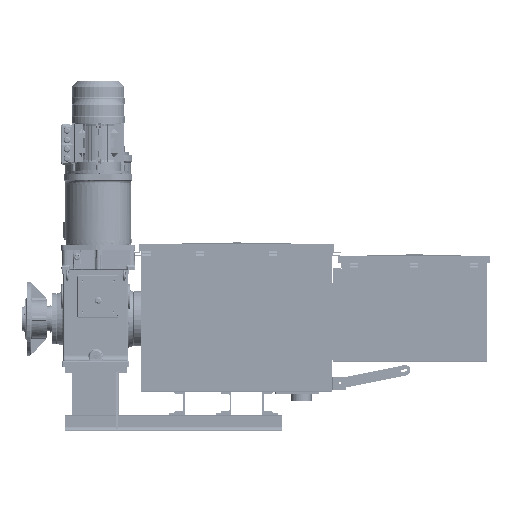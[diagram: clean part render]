
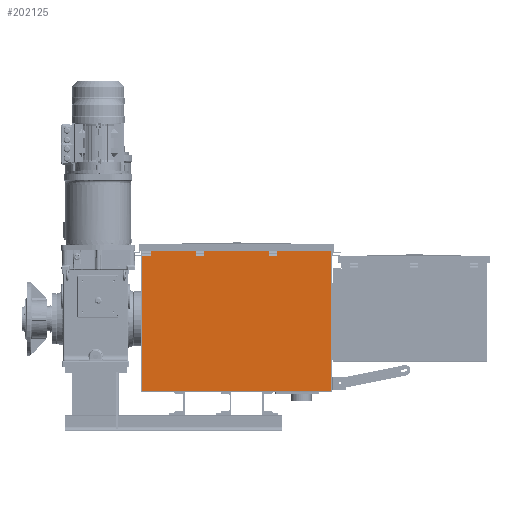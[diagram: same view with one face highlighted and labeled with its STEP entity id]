
A CAD part, top view. The second image highlights one B-rep face of the part: STEP entity #202125.
In plain terms, the highlighted planar face has unit normal (0, 0, 1).
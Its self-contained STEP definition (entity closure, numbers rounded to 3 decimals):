
#7387=FACE_BOUND('',#33119,.T.);
#7388=FACE_BOUND('',#33120,.T.);
#7389=FACE_BOUND('',#33121,.T.);
#20514=FACE_OUTER_BOUND('',#33118,.T.);
#33118=EDGE_LOOP('',(#169709,#169710,#169711,#169712,#169713,#169714,#169715,
#169716,#169717,#169718,#169719,#169720));
#33119=EDGE_LOOP('',(#169721,#169722,#169723,#169724));
#33120=EDGE_LOOP('',(#169725,#169726,#169727,#169728));
#33121=EDGE_LOOP('',(#169729,#169730,#169731,#169732));
#48710=LINE('',#355430,#65987);
#48727=LINE('',#355475,#66004);
#48729=LINE('',#355479,#66006);
#48730=LINE('',#355481,#66007);
#48731=LINE('',#355490,#66008);
#48748=LINE('',#355535,#66025);
#48750=LINE('',#355539,#66027);
#48751=LINE('',#355541,#66028);
#48752=LINE('',#355550,#66029);
#48769=LINE('',#355595,#66046);
#48771=LINE('',#355599,#66048);
#48772=LINE('',#355601,#66049);
#49063=LINE('',#356460,#66340);
#49066=LINE('',#356466,#66343);
#49069=LINE('',#356473,#66346);
#49072=LINE('',#356477,#66349);
#49078=LINE('',#356489,#66355);
#49080=LINE('',#356493,#66357);
#49082=LINE('',#356496,#66359);
#49083=LINE('',#356499,#66360);
#49084=LINE('',#356501,#66361);
#49085=LINE('',#356502,#66362);
#49086=LINE('',#356504,#66363);
#49087=LINE('',#356505,#66364);
#65987=VECTOR('',#262540,40.);
#66004=VECTOR('',#262583,40.);
#66006=VECTOR('',#262587,40.);
#66007=VECTOR('',#262590,40.);
#66008=VECTOR('',#262599,40.);
#66025=VECTOR('',#262642,40.);
#66027=VECTOR('',#262646,40.);
#66028=VECTOR('',#262649,40.);
#66029=VECTOR('',#262658,40.);
#66046=VECTOR('',#262701,40.);
#66048=VECTOR('',#262705,40.);
#66049=VECTOR('',#262708,40.);
#66340=VECTOR('',#263573,865.);
#66343=VECTOR('',#263578,0.992);
#66346=VECTOR('',#263583,2.976);
#66349=VECTOR('',#263588,1.984);
#66355=VECTOR('',#263598,2.976);
#66357=VECTOR('',#263602,0.992);
#66359=VECTOR('',#263606,1.984);
#66360=VECTOR('',#263609,23.016);
#66361=VECTOR('',#263610,699.016);
#66362=VECTOR('',#263611,915.);
#66363=VECTOR('',#263612,699.016);
#66364=VECTOR('',#263613,23.016);
#90969=VERTEX_POINT('',#355428);
#90970=VERTEX_POINT('',#355429);
#90985=VERTEX_POINT('',#355473);
#90986=VERTEX_POINT('',#355477);
#90989=VERTEX_POINT('',#355488);
#90990=VERTEX_POINT('',#355489);
#91005=VERTEX_POINT('',#355533);
#91006=VERTEX_POINT('',#355537);
#91009=VERTEX_POINT('',#355548);
#91010=VERTEX_POINT('',#355549);
#91025=VERTEX_POINT('',#355593);
#91026=VERTEX_POINT('',#355597);
#91214=VERTEX_POINT('',#356160);
#91306=VERTEX_POINT('',#356452);
#91307=VERTEX_POINT('',#356456);
#91309=VERTEX_POINT('',#356464);
#91311=VERTEX_POINT('',#356470);
#91312=VERTEX_POINT('',#356472);
#91315=VERTEX_POINT('',#356486);
#91316=VERTEX_POINT('',#356488);
#91317=VERTEX_POINT('',#356492);
#91318=VERTEX_POINT('',#356498);
#91319=VERTEX_POINT('',#356500);
#91320=VERTEX_POINT('',#356503);
#117272=EDGE_CURVE('',#90969,#90970,#48710,.T.);
#117295=EDGE_CURVE('',#90970,#90985,#48727,.T.);
#117297=EDGE_CURVE('',#90986,#90969,#48729,.T.);
#117298=EDGE_CURVE('',#90985,#90986,#48730,.T.);
#117301=EDGE_CURVE('',#90989,#90990,#48731,.T.);
#117324=EDGE_CURVE('',#90990,#91005,#48748,.T.);
#117326=EDGE_CURVE('',#91006,#90989,#48750,.T.);
#117327=EDGE_CURVE('',#91005,#91006,#48751,.T.);
#117330=EDGE_CURVE('',#91009,#91010,#48752,.T.);
#117353=EDGE_CURVE('',#91010,#91025,#48769,.T.);
#117355=EDGE_CURVE('',#91026,#91009,#48771,.T.);
#117356=EDGE_CURVE('',#91025,#91026,#48772,.T.);
#117770=EDGE_CURVE('',#91306,#91307,#49063,.T.);
#117773=EDGE_CURVE('',#91307,#91309,#49066,.T.);
#117776=EDGE_CURVE('',#91312,#91311,#49069,.T.);
#117779=EDGE_CURVE('',#91309,#91312,#49072,.T.);
#117785=EDGE_CURVE('',#91316,#91315,#49078,.T.);
#117787=EDGE_CURVE('',#91317,#91306,#49080,.T.);
#117789=EDGE_CURVE('',#91315,#91317,#49082,.T.);
#117790=EDGE_CURVE('',#91318,#91311,#49083,.T.);
#117791=EDGE_CURVE('',#91319,#91318,#49084,.T.);
#117792=EDGE_CURVE('',#91319,#91214,#49085,.T.);
#117793=EDGE_CURVE('',#91320,#91214,#49086,.T.);
#117794=EDGE_CURVE('',#91316,#91320,#49087,.T.);
#169709=ORIENTED_EDGE('',*,*,#117776,.T.);
#169710=ORIENTED_EDGE('',*,*,#117790,.F.);
#169711=ORIENTED_EDGE('',*,*,#117791,.F.);
#169712=ORIENTED_EDGE('',*,*,#117792,.T.);
#169713=ORIENTED_EDGE('',*,*,#117793,.F.);
#169714=ORIENTED_EDGE('',*,*,#117794,.F.);
#169715=ORIENTED_EDGE('',*,*,#117785,.T.);
#169716=ORIENTED_EDGE('',*,*,#117789,.T.);
#169717=ORIENTED_EDGE('',*,*,#117787,.T.);
#169718=ORIENTED_EDGE('',*,*,#117770,.T.);
#169719=ORIENTED_EDGE('',*,*,#117773,.T.);
#169720=ORIENTED_EDGE('',*,*,#117779,.T.);
#169721=ORIENTED_EDGE('',*,*,#117272,.T.);
#169722=ORIENTED_EDGE('',*,*,#117295,.T.);
#169723=ORIENTED_EDGE('',*,*,#117298,.T.);
#169724=ORIENTED_EDGE('',*,*,#117297,.T.);
#169725=ORIENTED_EDGE('',*,*,#117301,.T.);
#169726=ORIENTED_EDGE('',*,*,#117324,.T.);
#169727=ORIENTED_EDGE('',*,*,#117327,.T.);
#169728=ORIENTED_EDGE('',*,*,#117326,.T.);
#169729=ORIENTED_EDGE('',*,*,#117330,.T.);
#169730=ORIENTED_EDGE('',*,*,#117353,.T.);
#169731=ORIENTED_EDGE('',*,*,#117356,.T.);
#169732=ORIENTED_EDGE('',*,*,#117355,.T.);
#181135=PLANE('',#218103);
#202125=ADVANCED_FACE('',(#20514,#7387,#7388,#7389),#181135,.F.);
#218103=AXIS2_PLACEMENT_3D('',#356497,#263607,#263608);
#262540=DIRECTION('',(0.,-1.,0.));
#262583=DIRECTION('',(-1.,0.,0.));
#262587=DIRECTION('',(1.,0.,0.));
#262590=DIRECTION('',(0.,1.,0.));
#262599=DIRECTION('',(0.,-1.,0.));
#262642=DIRECTION('',(-1.,0.,0.));
#262646=DIRECTION('',(1.,0.,0.));
#262649=DIRECTION('',(0.,1.,0.));
#262658=DIRECTION('',(0.,-1.,0.));
#262701=DIRECTION('',(-1.,0.,0.));
#262705=DIRECTION('',(1.,0.,0.));
#262708=DIRECTION('',(0.,1.,0.));
#263573=DIRECTION('',(-1.,0.,0.));
#263578=DIRECTION('',(0.,-1.,0.));
#263583=DIRECTION('',(0.,1.,0.));
#263588=DIRECTION('',(-1.,0.,0.));
#263598=DIRECTION('',(0.,-1.,0.));
#263602=DIRECTION('',(0.,1.,0.));
#263606=DIRECTION('',(-1.,0.,0.));
#263607=DIRECTION('center_axis',(0.,0.,
-1.));
#263608=DIRECTION('ref_axis',(-1.,0.,0.));
#263609=DIRECTION('',(1.,0.,0.));
#263610=DIRECTION('',(0.,1.,0.));
#263611=DIRECTION('',(1.,0.,0.));
#263612=DIRECTION('',(0.,-1.,0.));
#263613=DIRECTION('',(1.,0.,0.));
#355428=CARTESIAN_POINT('',(305.802,282.411,203.519));
#355429=CARTESIAN_POINT('',(305.802,242.411,203.519));
#355430=CARTESIAN_POINT('',(305.802,95.33,203.519));
#355473=CARTESIAN_POINT('',(265.802,242.411,203.519));
#355475=CARTESIAN_POINT('',(503.302,242.411,203.519));
#355477=CARTESIAN_POINT('',(265.802,282.411,203.519));
#355479=CARTESIAN_POINT('',(503.302,282.411,203.519));
#355481=CARTESIAN_POINT('',(265.802,95.33,203.519));
#355488=CARTESIAN_POINT('',(915.802,282.411,203.519));
#355489=CARTESIAN_POINT('',(915.802,242.411,203.519));
#355490=CARTESIAN_POINT('',(915.802,95.33,203.519));
#355533=CARTESIAN_POINT('',(875.802,242.411,203.519));
#355535=CARTESIAN_POINT('',(808.302,242.411,203.519));
#355537=CARTESIAN_POINT('',(875.802,282.411,203.519));
#355539=CARTESIAN_POINT('',(808.302,282.411,203.519));
#355541=CARTESIAN_POINT('',(875.802,95.33,203.519));
#355548=CARTESIAN_POINT('',(565.802,282.411,203.519));
#355549=CARTESIAN_POINT('',(565.802,242.411,203.519));
#355550=CARTESIAN_POINT('',(565.802,95.33,203.519));
#355593=CARTESIAN_POINT('',(525.802,242.411,203.519));
#355595=CARTESIAN_POINT('',(633.302,242.411,203.519));
#355597=CARTESIAN_POINT('',(525.802,282.411,203.519));
#355599=CARTESIAN_POINT('',(633.302,282.411,203.519));
#355601=CARTESIAN_POINT('',(525.802,95.33,203.519));
#356160=CARTESIAN_POINT('',(1178.302,-410.889,203.519));
#356452=CARTESIAN_POINT('',(1153.302,286.143,203.519));
#356456=CARTESIAN_POINT('',(288.302,286.143,203.519));
#356460=CARTESIAN_POINT('',(504.552,286.143,203.519));
#356464=CARTESIAN_POINT('',(288.302,285.151,203.519));
#356466=CARTESIAN_POINT('',(288.302,110.763,203.519));
#356470=CARTESIAN_POINT('',(286.318,288.127,203.519));
#356472=CARTESIAN_POINT('',(286.318,285.151,203.519));
#356473=CARTESIAN_POINT('',(286.318,112.251,203.519));
#356477=CARTESIAN_POINT('',(503.56,285.151,203.519));
#356486=CARTESIAN_POINT('',(1155.286,285.151,203.519));
#356488=CARTESIAN_POINT('',(1155.286,288.127,203.519));
#356489=CARTESIAN_POINT('',(1155.286,110.763,203.519));
#356492=CARTESIAN_POINT('',(1153.302,285.151,203.519));
#356493=CARTESIAN_POINT('',(1153.302,112.251,203.519));
#356496=CARTESIAN_POINT('',(937.052,285.151,203.519));
#356497=CARTESIAN_POINT('Origin',(720.802,-63.625,203.519));
#356498=CARTESIAN_POINT('',(263.302,288.127,203.519));
#356499=CARTESIAN_POINT('',(263.302,288.127,203.519));
#356500=CARTESIAN_POINT('',(263.302,-410.889,203.519));
#356501=CARTESIAN_POINT('',(263.302,-410.889,203.519));
#356502=CARTESIAN_POINT('',(720.802,-410.889,203.519));
#356503=CARTESIAN_POINT('',(1178.302,288.127,203.519));
#356504=CARTESIAN_POINT('',(1178.302,-419.864,203.519));
#356505=CARTESIAN_POINT('',(263.302,288.127,203.519));
